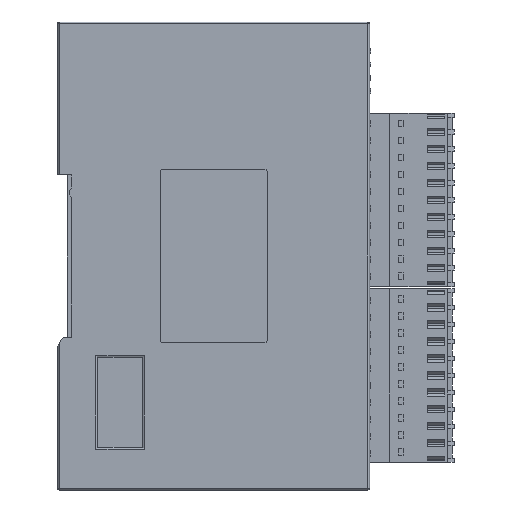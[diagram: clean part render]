
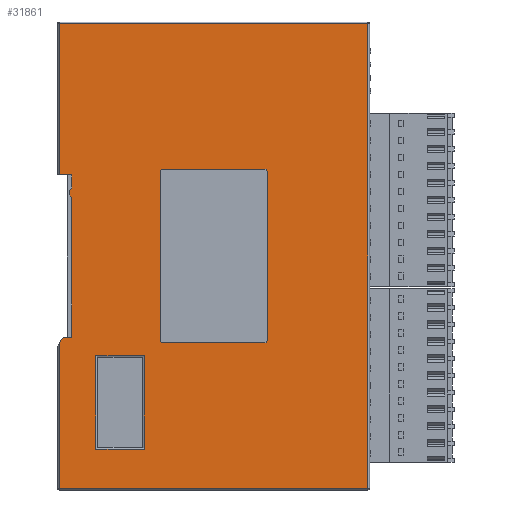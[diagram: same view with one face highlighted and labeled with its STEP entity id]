
A CAD part, left-side view. The second image highlights one B-rep face of the part: STEP entity #31861.
In plain terms, the highlighted planar face has unit normal (-1, 0, 0).
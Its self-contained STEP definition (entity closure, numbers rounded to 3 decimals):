
#31861=ADVANCED_FACE('',(#54323,#54325,#54327),#54329,.T.);
#54323=FACE_BOUND('',#54324,.T.);
#54324=EDGE_LOOP('',(#70719,#70720,#70721,#70722,#70723,#70724,#70725,#70726,#70727,
#70728,#70729));
#54325=FACE_BOUND('',#54326,.T.);
#54326=EDGE_LOOP('',(#70730,#70731,#70732,#70733,#70734,#70735,#70736,#70737));
#54327=FACE_BOUND('',#54328,.T.);
#54328=EDGE_LOOP('',(#70738,#70739,#70740,#70741));
#54329=PLANE('',#54330);
#54330=AXIS2_PLACEMENT_3D('',#54331,#54332,#54333);
#54331=CARTESIAN_POINT('',(-345.903,-44.348,173.566));
#54332=DIRECTION('',(-1.,0.,0.));
#54333=DIRECTION('',(0.,0.,1.));
#70719=ORIENTED_EDGE('',*,*,#85204,.F.);
#70720=ORIENTED_EDGE('',*,*,#85205,.F.);
#70721=ORIENTED_EDGE('',*,*,#85206,.T.);
#70722=ORIENTED_EDGE('',*,*,#85207,.T.);
#70723=ORIENTED_EDGE('',*,*,#85208,.T.);
#70724=ORIENTED_EDGE('',*,*,#85209,.T.);
#70725=ORIENTED_EDGE('',*,*,#85210,.T.);
#70726=ORIENTED_EDGE('',*,*,#85211,.F.);
#70727=ORIENTED_EDGE('',*,*,#85212,.F.);
#70728=ORIENTED_EDGE('',*,*,#85213,.F.);
#70729=ORIENTED_EDGE('',*,*,#84924,.F.);
#70730=ORIENTED_EDGE('',*,*,#85214,.F.);
#70731=ORIENTED_EDGE('',*,*,#85215,.F.);
#70732=ORIENTED_EDGE('',*,*,#85216,.F.);
#70733=ORIENTED_EDGE('',*,*,#85217,.F.);
#70734=ORIENTED_EDGE('',*,*,#85218,.F.);
#70735=ORIENTED_EDGE('',*,*,#85219,.F.);
#70736=ORIENTED_EDGE('',*,*,#85220,.F.);
#70737=ORIENTED_EDGE('',*,*,#85221,.F.);
#70738=ORIENTED_EDGE('',*,*,#85222,.F.);
#70739=ORIENTED_EDGE('',*,*,#85223,.F.);
#70740=ORIENTED_EDGE('',*,*,#85224,.F.);
#70741=ORIENTED_EDGE('',*,*,#85225,.F.);
#84924=EDGE_CURVE('',#181897,#181895,#181899,.T.);
#85204=EDGE_CURVE('',#182436,#181897,#182437,.T.);
#85205=EDGE_CURVE('',#182438,#182436,#182439,.T.);
#85206=EDGE_CURVE('',#182438,#182440,#182441,.T.);
#85207=EDGE_CURVE('',#182440,#182442,#182443,.T.);
#85208=EDGE_CURVE('',#182442,#182444,#182445,.T.);
#85209=EDGE_CURVE('',#182444,#182446,#182447,.T.);
#85210=EDGE_CURVE('',#182446,#182448,#182449,.T.);
#85211=EDGE_CURVE('',#182450,#182448,#182451,.T.);
#85212=EDGE_CURVE('',#182452,#182450,#182453,.T.);
#85213=EDGE_CURVE('',#181895,#182452,#182454,.T.);
#85214=EDGE_CURVE('',#182455,#182456,#182457,.T.);
#85215=EDGE_CURVE('',#182458,#182455,#182459,.T.);
#85216=EDGE_CURVE('',#182460,#182458,#182461,.T.);
#85217=EDGE_CURVE('',#182462,#182460,#182463,.T.);
#85218=EDGE_CURVE('',#182464,#182462,#182465,.T.);
#85219=EDGE_CURVE('',#182466,#182464,#182467,.T.);
#85220=EDGE_CURVE('',#182468,#182466,#182469,.T.);
#85221=EDGE_CURVE('',#182456,#182468,#182470,.T.);
#85222=EDGE_CURVE('',#182471,#182472,#182473,.T.);
#85223=EDGE_CURVE('',#182474,#182471,#182475,.T.);
#85224=EDGE_CURVE('',#182476,#182474,#182477,.T.);
#85225=EDGE_CURVE('',#182472,#182476,#182478,.T.);
#181895=VERTEX_POINT('',#193019);
#181897=VERTEX_POINT('',#193024);
#181899=LINE('',#193029,#193030);
#182436=VERTEX_POINT('',#194248);
#182437=LINE('',#194249,#194250);
#182438=VERTEX_POINT('',#194252);
#182439=LINE('',#194253,#194254);
#182440=VERTEX_POINT('',#194256);
#182441=LINE('',#194257,#194258);
#182442=VERTEX_POINT('',#194260);
#182443=LINE('',#194261,#194262);
#182444=VERTEX_POINT('',#194264);
#182445=CIRCLE('',#194265,2.);
#182446=VERTEX_POINT('',#194269);
#182447=LINE('',#194270,#194271);
#182448=VERTEX_POINT('',#194273);
#182449=LINE('',#194274,#194275);
#182450=VERTEX_POINT('',#194277);
#182451=LINE('',#194278,#194279);
#182452=VERTEX_POINT('',#194281);
#182453=LINE('',#194282,#194283);
#182454=LINE('',#194285,#194286);
#182455=VERTEX_POINT('',#194288);
#182456=VERTEX_POINT('',#194289);
#182457=LINE('',#194290,#194291);
#182458=VERTEX_POINT('',#194293);
#182459=CIRCLE('',#194294,0.5);
#182460=VERTEX_POINT('',#194298);
#182461=LINE('',#194299,#194300);
#182462=VERTEX_POINT('',#194302);
#182463=CIRCLE('',#194303,0.5);
#182464=VERTEX_POINT('',#194307);
#182465=LINE('',#194308,#194309);
#182466=VERTEX_POINT('',#194311);
#182467=CIRCLE('',#194312,0.5);
#182468=VERTEX_POINT('',#194316);
#182469=LINE('',#194317,#194318);
#182470=CIRCLE('',#194320,0.5);
#182471=VERTEX_POINT('',#194324);
#182472=VERTEX_POINT('',#194325);
#182473=LINE('',#194326,#194327);
#182474=VERTEX_POINT('',#194329);
#182475=LINE('',#194330,#194331);
#182476=VERTEX_POINT('',#194333);
#182477=LINE('',#194334,#194335);
#182478=LINE('',#194337,#194338);
#193019=CARTESIAN_POINT('',(-345.903,-120.48,183.998));
#193024=CARTESIAN_POINT('',(-345.903,-120.48,288.198));
#193029=CARTESIAN_POINT('',(-345.903,-120.48,288.198));
#193030=VECTOR('',#193031,1.);
#193031=DIRECTION('',(0.,0.,-1.));
#194248=CARTESIAN_POINT('',(-345.903,-51.28,288.198));
#194249=CARTESIAN_POINT('',(-345.903,-51.28,288.198));
#194250=VECTOR('',#194251,1.);
#194251=DIRECTION('',(0.,-1.,0.));
#194252=CARTESIAN_POINT('',(-345.903,-51.28,254.298));
#194253=CARTESIAN_POINT('',(-345.903,-51.28,254.298));
#194254=VECTOR('',#194255,1.);
#194255=DIRECTION('',(0.,0.,1.));
#194256=CARTESIAN_POINT('',(-345.903,-54.08,254.298));
#194257=CARTESIAN_POINT('',(-345.903,-51.28,254.298));
#194258=VECTOR('',#194259,1.);
#194259=DIRECTION('',(0.,-1.,0.));
#194260=CARTESIAN_POINT('',(-345.903,-54.08,251.62));
#194261=CARTESIAN_POINT('',(-345.903,-54.08,254.298));
#194262=VECTOR('',#194263,1.);
#194263=DIRECTION('',(0.,0.,-1.));
#194264=CARTESIAN_POINT('',(-345.903,-54.08,248.975));
#194265=AXIS2_PLACEMENT_3D('',#194266,#194267,#194268);
#194266=CARTESIAN_POINT('',(-345.903,-55.58,250.298));
#194267=DIRECTION('',(-1.,0.,0.));
#194268=DIRECTION('',(0.,0.75,0.661));
#194269=CARTESIAN_POINT('',(-345.903,-54.08,217.898));
#194270=CARTESIAN_POINT('',(-345.903,-54.08,248.975));
#194271=VECTOR('',#194272,1.);
#194272=DIRECTION('',(0.,0.,-1.));
#194273=CARTESIAN_POINT('',(-345.903,-52.08,217.898));
#194274=CARTESIAN_POINT('',(-345.903,-54.08,217.898));
#194275=VECTOR('',#194276,1.);
#194276=DIRECTION('',(0.,1.,0.));
#194277=CARTESIAN_POINT('',(-345.903,-51.28,216.564));
#194278=CARTESIAN_POINT('',(-345.903,-51.28,216.564));
#194279=VECTOR('',#194280,1.);
#194280=DIRECTION('',(0.,-0.515,0.857));
#194281=CARTESIAN_POINT('',(-345.903,-51.28,183.998));
#194282=CARTESIAN_POINT('',(-345.903,-51.28,183.998));
#194283=VECTOR('',#194284,1.);
#194284=DIRECTION('',(0.,0.,1.));
#194285=CARTESIAN_POINT('',(-345.903,-120.48,183.998));
#194286=VECTOR('',#194287,1.);
#194287=DIRECTION('',(0.,1.,0.));
#194288=CARTESIAN_POINT('',(-345.903,-97.38,255.598));
#194289=CARTESIAN_POINT('',(-345.903,-74.38,255.598));
#194290=CARTESIAN_POINT('',(-345.903,-97.38,255.598));
#194291=VECTOR('',#194292,1.);
#194292=DIRECTION('',(0.,1.,0.));
#194293=CARTESIAN_POINT('',(-345.903,-97.88,255.098));
#194294=AXIS2_PLACEMENT_3D('',#194295,#194296,#194297);
#194295=CARTESIAN_POINT('',(-345.903,-97.38,255.098));
#194296=DIRECTION('',(-1.,0.,0.));
#194297=DIRECTION('',(0.,-1.,0.));
#194298=CARTESIAN_POINT('',(-345.903,-97.88,217.098));
#194299=CARTESIAN_POINT('',(-345.903,-97.88,217.098));
#194300=VECTOR('',#194301,1.);
#194301=DIRECTION('',(0.,0.,1.));
#194302=CARTESIAN_POINT('',(-345.903,-97.38,216.598));
#194303=AXIS2_PLACEMENT_3D('',#194304,#194305,#194306);
#194304=CARTESIAN_POINT('',(-345.903,-97.38,217.098));
#194305=DIRECTION('',(-1.,0.,0.));
#194306=DIRECTION('',(0.,0.,-1.));
#194307=CARTESIAN_POINT('',(-345.903,-74.38,216.598));
#194308=CARTESIAN_POINT('',(-345.903,-74.38,216.598));
#194309=VECTOR('',#194310,1.);
#194310=DIRECTION('',(0.,-1.,0.));
#194311=CARTESIAN_POINT('',(-345.903,-73.88,217.098));
#194312=AXIS2_PLACEMENT_3D('',#194313,#194314,#194315);
#194313=CARTESIAN_POINT('',(-345.903,-74.38,217.098));
#194314=DIRECTION('',(-1.,0.,0.));
#194315=DIRECTION('',(0.,1.,0.));
#194316=CARTESIAN_POINT('',(-345.903,-73.88,255.098));
#194317=CARTESIAN_POINT('',(-345.903,-73.88,255.098));
#194318=VECTOR('',#194319,1.);
#194319=DIRECTION('',(0.,0.,-1.));
#194320=AXIS2_PLACEMENT_3D('',#194321,#194322,#194323);
#194321=CARTESIAN_POINT('',(-345.903,-74.38,255.098));
#194322=DIRECTION('',(-1.,0.,0.));
#194323=DIRECTION('',(0.,0.,1.));
#194324=CARTESIAN_POINT('',(-345.903,-70.34,192.748));
#194325=CARTESIAN_POINT('',(-345.903,-70.34,213.748));
#194326=CARTESIAN_POINT('',(-345.903,-70.34,192.748));
#194327=VECTOR('',#194328,1.);
#194328=DIRECTION('',(0.,0.,1.));
#194329=CARTESIAN_POINT('',(-345.903,-59.45,192.748));
#194330=CARTESIAN_POINT('',(-345.903,-59.45,192.748));
#194331=VECTOR('',#194332,1.);
#194332=DIRECTION('',(0.,-1.,0.));
#194333=CARTESIAN_POINT('',(-345.903,-59.45,213.748));
#194334=CARTESIAN_POINT('',(-345.903,-59.45,213.748));
#194335=VECTOR('',#194336,1.);
#194336=DIRECTION('',(0.,0.,-1.));
#194337=CARTESIAN_POINT('',(-345.903,-70.34,213.748));
#194338=VECTOR('',#194339,1.);
#194339=DIRECTION('',(0.,1.,0.));
